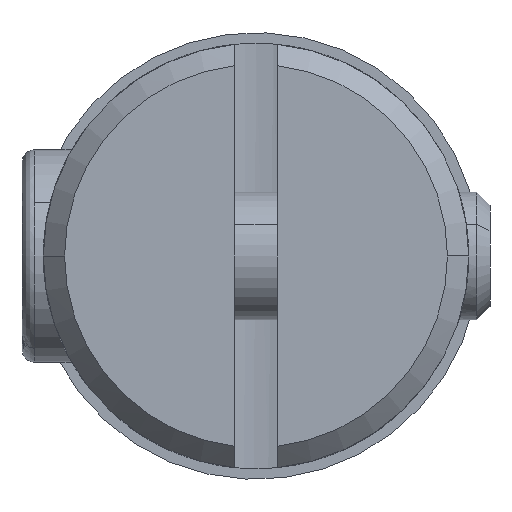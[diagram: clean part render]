
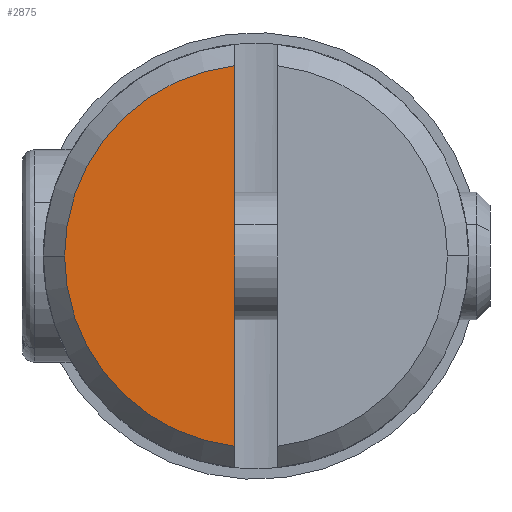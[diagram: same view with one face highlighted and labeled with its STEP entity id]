
A CAD part, left-side view. The second image highlights one B-rep face of the part: STEP entity #2875.
In plain terms, the highlighted planar face has unit normal (-1, 0, 0).
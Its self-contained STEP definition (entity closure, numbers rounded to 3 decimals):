
#342=CARTESIAN_POINT('',(0.0,9.0,0.));
#343=VERTEX_POINT('',#342);
#352=CARTESIAN_POINT('',(0.0,1.,8.944));
#353=VERTEX_POINT('',#352);
#354=CARTESIAN_POINT('',(0.0,0.0,0.0));
#355=DIRECTION('',(1.0,0.0,0.0));
#356=DIRECTION('',(0.0,1.0,0.0));
#357=AXIS2_PLACEMENT_3D('',#354,#355,#356);
#358=CIRCLE('',#357,9.0);
#359=EDGE_CURVE('',#343,#353,#358,.T.);
#2712=CARTESIAN_POINT('',(0.0,1.,-8.944));
#2713=VERTEX_POINT('',#2712);
#2727=CARTESIAN_POINT('',(0.0,0.0,0.0));
#2728=DIRECTION('',(1.0,0.0,0.0));
#2729=DIRECTION('',(0.0,1.0,0.0));
#2730=AXIS2_PLACEMENT_3D('',#2727,#2728,#2729);
#2731=CIRCLE('',#2730,9.0);
#2732=EDGE_CURVE('',#2713,#343,#2731,.T.);
#2839=CARTESIAN_POINT('',(0.0,1.,-8.944));
#2840=DIRECTION('',(0.0,0.0,1.0));
#2841=VECTOR('',#2840,17.889);
#2842=LINE('',#2839,#2841);
#2843=EDGE_CURVE('',#2713,#353,#2842,.T.);
#2865=CARTESIAN_POINT('',(0.0,5.0,0.0));
#2866=DIRECTION('',(-1.0,0.0,0.0));
#2867=DIRECTION('',(0.0,0.0,1.0));
#2868=AXIS2_PLACEMENT_3D('',#2865,#2866,#2867);
#2869=PLANE('',#2868);
#2870=ORIENTED_EDGE('',*,*,#2732,.F.);
#2871=ORIENTED_EDGE('',*,*,#2843,.T.);
#2872=ORIENTED_EDGE('',*,*,#359,.F.);
#2873=EDGE_LOOP('',(#2870,#2871,#2872));
#2874=FACE_OUTER_BOUND('',#2873,.T.);
#2875=ADVANCED_FACE('',(#2874),#2869,.T.);
